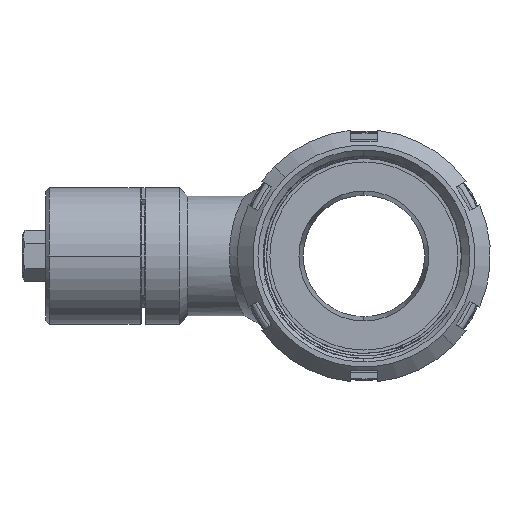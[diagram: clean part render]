
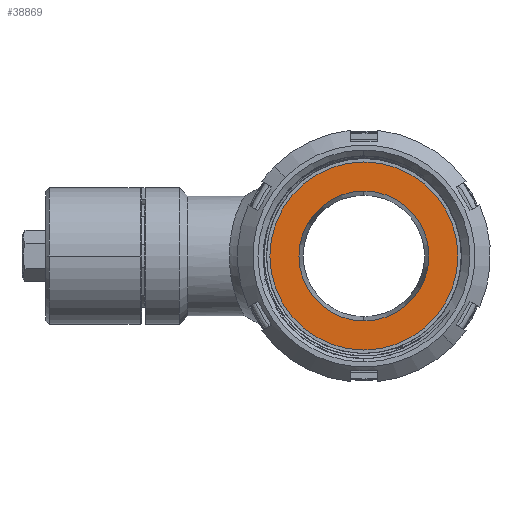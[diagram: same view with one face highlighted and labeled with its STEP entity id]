
A CAD part, left-side view. The second image highlights one B-rep face of the part: STEP entity #38869.
In plain terms, the highlighted planar face has unit normal (-1, 0, 0).
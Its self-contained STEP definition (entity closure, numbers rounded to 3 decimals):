
#5489=CARTESIAN_POINT('',(-72.,0.,0.));
#5490=DIRECTION('',(-1.,0.,0.));
#5491=DIRECTION('',(0.,1.,0.));
#5492=AXIS2_PLACEMENT_3D('',#5489,#5490,#5491);
#5512=CARTESIAN_POINT('',(-72.,0.,0.));
#5513=DIRECTION('',(-1.,0.,0.));
#5514=DIRECTION('',(0.,-1.,0.));
#5515=AXIS2_PLACEMENT_3D('',#5512,#5513,#5514);
#5520=CARTESIAN_POINT('',(-72.,0.,0.));
#5521=DIRECTION('',(-1.,0.,0.));
#5522=DIRECTION('',(0.,-1.,0.));
#5523=AXIS2_PLACEMENT_3D('',#5520,#5521,#5522);
#5536=CARTESIAN_POINT('',(-72.,0.,0.));
#5537=DIRECTION('',(-1.,0.,0.));
#5538=DIRECTION('',(0.,1.,0.));
#5539=AXIS2_PLACEMENT_3D('',#5536,#5537,#5538);
#33701=CARTESIAN_POINT('',(-72.,-19.,0.));
#33702=CARTESIAN_POINT('',(-72.,19.,0.));
#33703=VERTEX_POINT('',#33701);
#33704=VERTEX_POINT('',#33702);
#33717=CARTESIAN_POINT('',(-72.,27.5,0.));
#33718=CARTESIAN_POINT('',(-72.,-27.5,0.));
#33719=VERTEX_POINT('',#33717);
#33720=VERTEX_POINT('',#33718);
#38854=CARTESIAN_POINT('',(-72.,0.,0.));
#38855=DIRECTION('',(-1.,0.,0.));
#38856=DIRECTION('',(0.,0.,-1.));
#38857=AXIS2_PLACEMENT_3D('',#38854,#38855,#38856);
#38858=PLANE('',#38857);
#38859=ORIENTED_EDGE('',*,*,#38834,.F.);
#38860=ORIENTED_EDGE('',*,*,#38848,.F.);
#38861=EDGE_LOOP('',(#38859,#38860));
#38862=FACE_OUTER_BOUND('',#38861,.F.);
#38864=ORIENTED_EDGE('',*,*,#38863,.T.);
#38866=ORIENTED_EDGE('',*,*,#38865,.T.);
#38867=EDGE_LOOP('',(#38864,#38866));
#38868=FACE_BOUND('',#38867,.F.);
#38869=ADVANCED_FACE('',(#38862,#38868),#38858,.T.);
#5493=CIRCLE('',#5492,27.5);
#5516=CIRCLE('',#5515,27.5);
#5524=CIRCLE('',#5523,19.);
#5540=CIRCLE('',#5539,19.);
#38834=EDGE_CURVE('',#33719,#33720,#5493,.T.);
#38848=EDGE_CURVE('',#33720,#33719,#5516,.T.);
#38863=EDGE_CURVE('',#33703,#33704,#5524,.T.);
#38865=EDGE_CURVE('',#33704,#33703,#5540,.T.);
